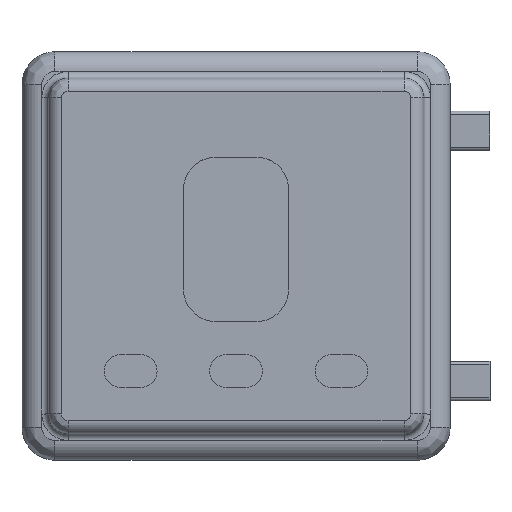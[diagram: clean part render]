
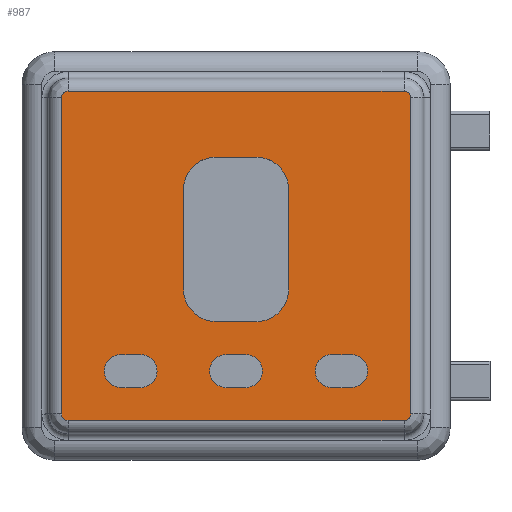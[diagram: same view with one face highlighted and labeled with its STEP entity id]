
A CAD part, top view. The second image highlights one B-rep face of the part: STEP entity #987.
In plain terms, the highlighted planar face has unit normal (0, 0, 1).
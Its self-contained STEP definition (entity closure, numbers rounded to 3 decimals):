
#987=ADVANCED_FACE('',(#1504,#1505,#1506,#1507,#1508),#1340,.T.);
#1340=PLANE('',#6642);
#1504=FACE_BOUND('',#1615,.T.);
#1505=FACE_BOUND('',#1616,.T.);
#1506=FACE_BOUND('',#1617,.T.);
#1507=FACE_BOUND('',#1618,.T.);
#1508=FACE_BOUND('',#1619,.T.);
#1615=EDGE_LOOP('',(#2564,#2565,#2566,#2567,#2568,#2569,#2570,#2571));
#1616=EDGE_LOOP('',(#2572,#2573,#2574,#2575,#2576,#2577,#2578,#2579));
#1617=EDGE_LOOP('',(#2580,#2581,#2582,#2583));
#1618=EDGE_LOOP('',(#2584,#2585,#2586,#2587));
#1619=EDGE_LOOP('',(#2588,#2589,#2590,#2591));
#2069=CIRCLE('',#6628,1.);
#2070=CIRCLE('',#6629,1.);
#2071=CIRCLE('',#6630,1.);
#2072=CIRCLE('',#6631,1.);
#2073=CIRCLE('',#6632,5.);
#2074=CIRCLE('',#6633,5.);
#2075=CIRCLE('',#6634,5.);
#2076=CIRCLE('',#6635,5.);
#2077=CIRCLE('',#6636,2.5);
#2078=CIRCLE('',#6637,2.5);
#2079=CIRCLE('',#6638,2.5);
#2080=CIRCLE('',#6639,2.5);
#2081=CIRCLE('',#6640,2.5);
#2082=CIRCLE('',#6641,2.5);
#2564=ORIENTED_EDGE('',*,*,#4955,.T.);
#2565=ORIENTED_EDGE('',*,*,#4956,.T.);
#2566=ORIENTED_EDGE('',*,*,#4957,.T.);
#2567=ORIENTED_EDGE('',*,*,#4958,.T.);
#2568=ORIENTED_EDGE('',*,*,#4959,.T.);
#2569=ORIENTED_EDGE('',*,*,#4960,.T.);
#2570=ORIENTED_EDGE('',*,*,#4961,.T.);
#2571=ORIENTED_EDGE('',*,*,#4962,.T.);
#2572=ORIENTED_EDGE('',*,*,#4963,.T.);
#2573=ORIENTED_EDGE('',*,*,#4964,.T.);
#2574=ORIENTED_EDGE('',*,*,#4965,.T.);
#2575=ORIENTED_EDGE('',*,*,#4966,.T.);
#2576=ORIENTED_EDGE('',*,*,#4967,.T.);
#2577=ORIENTED_EDGE('',*,*,#4968,.T.);
#2578=ORIENTED_EDGE('',*,*,#4969,.T.);
#2579=ORIENTED_EDGE('',*,*,#4970,.T.);
#2580=ORIENTED_EDGE('',*,*,#4971,.T.);
#2581=ORIENTED_EDGE('',*,*,#4972,.T.);
#2582=ORIENTED_EDGE('',*,*,#4973,.T.);
#2583=ORIENTED_EDGE('',*,*,#4974,.T.);
#2584=ORIENTED_EDGE('',*,*,#4975,.T.);
#2585=ORIENTED_EDGE('',*,*,#4976,.T.);
#2586=ORIENTED_EDGE('',*,*,#4977,.T.);
#2587=ORIENTED_EDGE('',*,*,#4978,.T.);
#2588=ORIENTED_EDGE('',*,*,#4979,.T.);
#2589=ORIENTED_EDGE('',*,*,#4980,.T.);
#2590=ORIENTED_EDGE('',*,*,#4981,.T.);
#2591=ORIENTED_EDGE('',*,*,#4982,.T.);
#4316=VERTEX_POINT('',#9578);
#4317=VERTEX_POINT('',#9579);
#4318=VERTEX_POINT('',#9581);
#4319=VERTEX_POINT('',#9583);
#4320=VERTEX_POINT('',#9585);
#4321=VERTEX_POINT('',#9587);
#4322=VERTEX_POINT('',#9589);
#4323=VERTEX_POINT('',#9591);
#4324=VERTEX_POINT('',#9594);
#4325=VERTEX_POINT('',#9595);
#4326=VERTEX_POINT('',#9597);
#4327=VERTEX_POINT('',#9599);
#4328=VERTEX_POINT('',#9601);
#4329=VERTEX_POINT('',#9603);
#4330=VERTEX_POINT('',#9605);
#4331=VERTEX_POINT('',#9607);
#4332=VERTEX_POINT('',#9610);
#4333=VERTEX_POINT('',#9611);
#4334=VERTEX_POINT('',#9613);
#4335=VERTEX_POINT('',#9615);
#4336=VERTEX_POINT('',#9618);
#4337=VERTEX_POINT('',#9619);
#4338=VERTEX_POINT('',#9621);
#4339=VERTEX_POINT('',#9623);
#4340=VERTEX_POINT('',#9626);
#4341=VERTEX_POINT('',#9627);
#4342=VERTEX_POINT('',#9629);
#4343=VERTEX_POINT('',#9631);
#4955=EDGE_CURVE('',#4316,#4317,#5765,.T.);
#4956=EDGE_CURVE('',#4317,#4318,#2069,.T.);
#4957=EDGE_CURVE('',#4318,#4319,#5766,.T.);
#4958=EDGE_CURVE('',#4319,#4320,#2070,.T.);
#4959=EDGE_CURVE('',#4320,#4321,#5767,.T.);
#4960=EDGE_CURVE('',#4321,#4322,#2071,.T.);
#4961=EDGE_CURVE('',#4322,#4323,#5768,.T.);
#4962=EDGE_CURVE('',#4323,#4316,#2072,.T.);
#4963=EDGE_CURVE('',#4324,#4325,#5769,.T.);
#4964=EDGE_CURVE('',#4325,#4326,#2073,.T.);
#4965=EDGE_CURVE('',#4326,#4327,#5770,.T.);
#4966=EDGE_CURVE('',#4327,#4328,#2074,.T.);
#4967=EDGE_CURVE('',#4328,#4329,#5771,.T.);
#4968=EDGE_CURVE('',#4329,#4330,#2075,.T.);
#4969=EDGE_CURVE('',#4330,#4331,#5772,.T.);
#4970=EDGE_CURVE('',#4331,#4324,#2076,.T.);
#4971=EDGE_CURVE('',#4332,#4333,#5773,.T.);
#4972=EDGE_CURVE('',#4333,#4334,#2077,.T.);
#4973=EDGE_CURVE('',#4334,#4335,#5774,.T.);
#4974=EDGE_CURVE('',#4335,#4332,#2078,.T.);
#4975=EDGE_CURVE('',#4336,#4337,#5775,.T.);
#4976=EDGE_CURVE('',#4337,#4338,#2079,.T.);
#4977=EDGE_CURVE('',#4338,#4339,#5776,.T.);
#4978=EDGE_CURVE('',#4339,#4336,#2080,.T.);
#4979=EDGE_CURVE('',#4340,#4341,#5777,.T.);
#4980=EDGE_CURVE('',#4341,#4342,#2081,.T.);
#4981=EDGE_CURVE('',#4342,#4343,#5778,.T.);
#4982=EDGE_CURVE('',#4343,#4340,#2082,.T.);
#5765=LINE('',#9577,#6201);
#5766=LINE('',#9582,#6202);
#5767=LINE('',#9586,#6203);
#5768=LINE('',#9590,#6204);
#5769=LINE('',#9593,#6205);
#5770=LINE('',#9598,#6206);
#5771=LINE('',#9602,#6207);
#5772=LINE('',#9606,#6208);
#5773=LINE('',#9609,#6209);
#5774=LINE('',#9614,#6210);
#5775=LINE('',#9617,#6211);
#5776=LINE('',#9622,#6212);
#5777=LINE('',#9625,#6213);
#5778=LINE('',#9630,#6214);
#6201=VECTOR('',#7499,1.);
#6202=VECTOR('',#7502,1.);
#6203=VECTOR('',#7505,1.);
#6204=VECTOR('',#7508,1.);
#6205=VECTOR('',#7511,1.);
#6206=VECTOR('',#7514,1.);
#6207=VECTOR('',#7517,1.);
#6208=VECTOR('',#7520,1.);
#6209=VECTOR('',#7523,1.);
#6210=VECTOR('',#7526,1.);
#6211=VECTOR('',#7529,1.);
#6212=VECTOR('',#7532,1.);
#6213=VECTOR('',#7535,1.);
#6214=VECTOR('',#7538,1.);
#6628=AXIS2_PLACEMENT_3D('',#9580,#7500,#7501);
#6629=AXIS2_PLACEMENT_3D('',#9584,#7503,#7504);
#6630=AXIS2_PLACEMENT_3D('',#9588,#7506,#7507);
#6631=AXIS2_PLACEMENT_3D('',#9592,#7509,#7510);
#6632=AXIS2_PLACEMENT_3D('',#9596,#7512,#7513);
#6633=AXIS2_PLACEMENT_3D('',#9600,#7515,#7516);
#6634=AXIS2_PLACEMENT_3D('',#9604,#7518,#7519);
#6635=AXIS2_PLACEMENT_3D('',#9608,#7521,#7522);
#6636=AXIS2_PLACEMENT_3D('',#9612,#7524,#7525);
#6637=AXIS2_PLACEMENT_3D('',#9616,#7527,#7528);
#6638=AXIS2_PLACEMENT_3D('',#9620,#7530,#7531);
#6639=AXIS2_PLACEMENT_3D('',#9624,#7533,#7534);
#6640=AXIS2_PLACEMENT_3D('',#9628,#7536,#7537);
#6641=AXIS2_PLACEMENT_3D('',#9632,#7539,#7540);
#6642=AXIS2_PLACEMENT_3D('',#9633,#7541,#7542);
#7499=DIRECTION('',(0.,-1.,0.));
#7500=DIRECTION('',(0.,0.,1.));
#7501=DIRECTION('',(1.,0.,0.));
#7502=DIRECTION('',(1.,0.,0.));
#7503=DIRECTION('',(0.,0.,1.));
#7504=DIRECTION('',(1.,0.,0.));
#7505=DIRECTION('',(0.,1.,0.));
#7506=DIRECTION('',(0.,0.,1.));
#7507=DIRECTION('',(1.,0.,0.));
#7508=DIRECTION('',(-1.,0.,0.));
#7509=DIRECTION('',(0.,0.,1.));
#7510=DIRECTION('',(1.,0.,0.));
#7511=DIRECTION('',(0.,-1.,0.));
#7512=DIRECTION('',(0.,0.,-1.));
#7513=DIRECTION('',(1.,0.,0.));
#7514=DIRECTION('',(-1.,0.,0.));
#7515=DIRECTION('',(0.,0.,-1.));
#7516=DIRECTION('',(1.,0.,0.));
#7517=DIRECTION('',(0.,1.,0.));
#7518=DIRECTION('',(0.,0.,-1.));
#7519=DIRECTION('',(1.,0.,0.));
#7520=DIRECTION('',(1.,0.,0.));
#7521=DIRECTION('',(0.,0.,-1.));
#7522=DIRECTION('',(1.,0.,0.));
#7523=DIRECTION('',(1.,0.,0.));
#7524=DIRECTION('',(0.,0.,-1.));
#7525=DIRECTION('',(1.,0.,0.));
#7526=DIRECTION('',(-1.,0.,0.));
#7527=DIRECTION('',(0.,0.,-1.));
#7528=DIRECTION('',(1.,0.,0.));
#7529=DIRECTION('',(1.,0.,0.));
#7530=DIRECTION('',(0.,0.,-1.));
#7531=DIRECTION('',(1.,0.,0.));
#7532=DIRECTION('',(-1.,0.,0.));
#7533=DIRECTION('',(0.,0.,-1.));
#7534=DIRECTION('',(1.,0.,0.));
#7535=DIRECTION('',(1.,0.,0.));
#7536=DIRECTION('',(0.,0.,-1.));
#7537=DIRECTION('',(1.,0.,0.));
#7538=DIRECTION('',(-1.,0.,0.));
#7539=DIRECTION('',(0.,0.,-1.));
#7540=DIRECTION('',(1.,0.,0.));
#7541=DIRECTION('',(0.,0.,1.));
#7542=DIRECTION('',(1.,0.,0.));
#9577=CARTESIAN_POINT('',(-26.5,0.,18.));
#9578=CARTESIAN_POINT('',(-26.5,24.,18.));
#9579=CARTESIAN_POINT('',(-26.5,-24.,18.));
#9580=CARTESIAN_POINT('',(-25.5,-24.,18.));
#9581=CARTESIAN_POINT('',(-25.5,-25.,18.));
#9582=CARTESIAN_POINT('',(0.,-25.,18.));
#9583=CARTESIAN_POINT('',(25.5,-25.,18.));
#9584=CARTESIAN_POINT('',(25.5,-24.,18.));
#9585=CARTESIAN_POINT('',(26.5,-24.,18.));
#9586=CARTESIAN_POINT('',(26.5,0.,18.));
#9587=CARTESIAN_POINT('',(26.5,24.,18.));
#9588=CARTESIAN_POINT('',(25.5,24.,18.));
#9589=CARTESIAN_POINT('',(25.5,25.,18.));
#9590=CARTESIAN_POINT('',(0.,25.,18.));
#9591=CARTESIAN_POINT('',(-25.5,25.,18.));
#9592=CARTESIAN_POINT('',(-25.5,24.,18.));
#9593=CARTESIAN_POINT('',(8.,0.,18.));
#9594=CARTESIAN_POINT('',(8.,10.,18.));
#9595=CARTESIAN_POINT('',(8.,-5.,18.));
#9596=CARTESIAN_POINT('',(3.,-5.,18.));
#9597=CARTESIAN_POINT('',(3.,-10.,18.));
#9598=CARTESIAN_POINT('',(0.,-10.,18.));
#9599=CARTESIAN_POINT('',(-3.,-10.,18.));
#9600=CARTESIAN_POINT('',(-3.,-5.,18.));
#9601=CARTESIAN_POINT('',(-8.,-5.,18.));
#9602=CARTESIAN_POINT('',(-8.,0.,18.));
#9603=CARTESIAN_POINT('',(-8.,10.,18.));
#9604=CARTESIAN_POINT('',(-3.,10.,18.));
#9605=CARTESIAN_POINT('',(-3.,15.,18.));
#9606=CARTESIAN_POINT('',(0.,15.,18.));
#9607=CARTESIAN_POINT('',(3.,15.,18.));
#9608=CARTESIAN_POINT('',(3.,10.,18.));
#9609=CARTESIAN_POINT('',(0.,-15.,18.));
#9610=CARTESIAN_POINT('',(-17.5,-15.,18.));
#9611=CARTESIAN_POINT('',(-14.5,-15.,18.));
#9612=CARTESIAN_POINT('',(-14.5,-17.5,18.));
#9613=CARTESIAN_POINT('',(-14.5,-20.,18.));
#9614=CARTESIAN_POINT('',(0.,-20.,18.));
#9615=CARTESIAN_POINT('',(-17.5,-20.,18.));
#9616=CARTESIAN_POINT('',(-17.5,-17.5,18.));
#9617=CARTESIAN_POINT('',(0.,-15.,18.));
#9618=CARTESIAN_POINT('',(-1.5,-15.,18.));
#9619=CARTESIAN_POINT('',(1.5,-15.,18.));
#9620=CARTESIAN_POINT('',(1.5,-17.5,18.));
#9621=CARTESIAN_POINT('',(1.5,-20.,18.));
#9622=CARTESIAN_POINT('',(0.,-20.,18.));
#9623=CARTESIAN_POINT('',(-1.5,-20.,18.));
#9624=CARTESIAN_POINT('',(-1.5,-17.5,18.));
#9625=CARTESIAN_POINT('',(0.,-15.,18.));
#9626=CARTESIAN_POINT('',(14.5,-15.,18.));
#9627=CARTESIAN_POINT('',(17.5,-15.,18.));
#9628=CARTESIAN_POINT('',(17.5,-17.5,18.));
#9629=CARTESIAN_POINT('',(17.5,-20.,18.));
#9630=CARTESIAN_POINT('',(0.,-20.,18.));
#9631=CARTESIAN_POINT('',(14.5,-20.,18.));
#9632=CARTESIAN_POINT('',(14.5,-17.5,18.));
#9633=CARTESIAN_POINT('',(0.,0.,18.));
